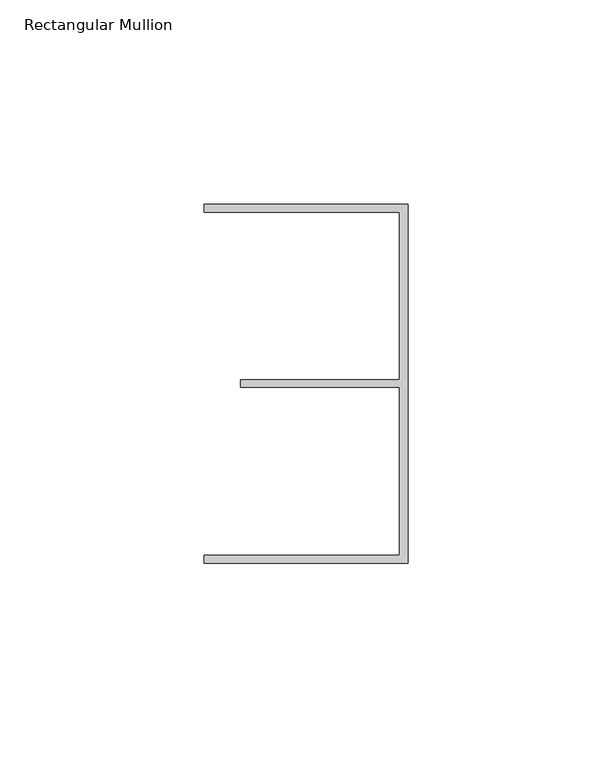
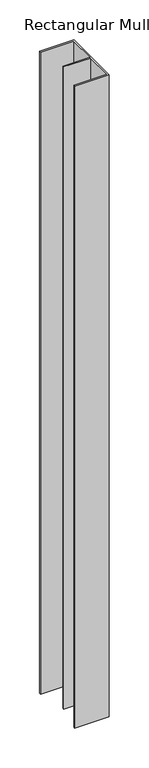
"""IFC4 building model written with IfcOpenShell, lengths in millimetres: member geometry, Rectangular Mullion : FLOOR_TRACK_CAP 94-KLS00-P80-SD41ALU."""

from ifc_helpers import new_model, si_unit, frame, origin, place, context, project, spatial, polyline, outline, extrude, source, transform, mapped, element, save


def rectangular_mullion_d56148ed(model_context):
    return source(origin(), model_context, "Body", "SweptSolid", [
        extrude(outline(polyline([(0.0, -44.0), (-50.0, -44.0), (-50.0, -42.0), (-2.0, -42.0), (-2.0, -0.9316478), (-41.0, -0.9316478), (-41.0, 0.9316478), (-2.0, 0.9316478), (-2.0, 42.0), (-50.0, 42.0), (-50.0, 44.0), (0.0, 44.0), (0.0, -44.0)])), frame((0.0, 0.0, -984.7), z_axis=(0.0, 0.0, 1.0), x_axis=(1.0, 0.0, 0.0)), (0.0, 0.0, 1.0), 984.7),
    ])


if __name__ == "__main__":
    model = new_model("IFC4")
    model_context = context("Model", 3, world=origin())
    ifc_project = project(units=[si_unit("LENGTHUNIT", "METRE", prefix="MILLI")], contexts=[model_context])
    site = spatial("IfcSite", under=ifc_project)
    building = spatial("IfcBuilding", under=site)
    placement = place(None, origin())
    rectangular_mullion_shape = rectangular_mullion_d56148ed(model_context)
    element("IfcMember", 1, ObjectType="Rectangular Mullion : FLOOR_TRACK_CAP 94-KLS00-P80-SD41ALU", at=placement, inside=building, context=model_context, shape_type="MappedRepresentation", body=[
        mapped(rectangular_mullion_shape, transform((0.0, 0.0, 0.0), x_axis=(1.0, 0.0, 0.0), y_axis=(0.0, 1.0, 0.0), z_axis=(0.0, 0.0, 1.0))),
    ])
    save(model, "model.ifc")
